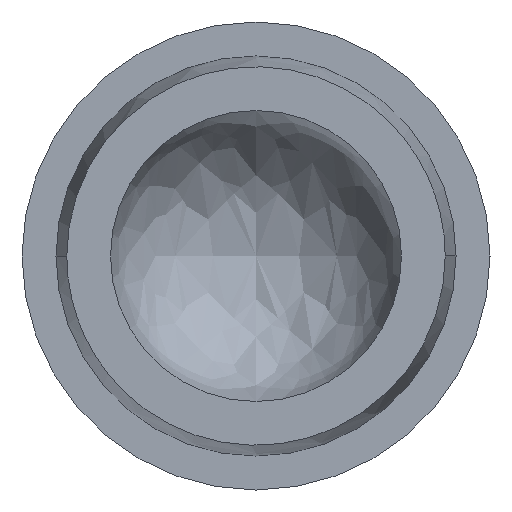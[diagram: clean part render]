
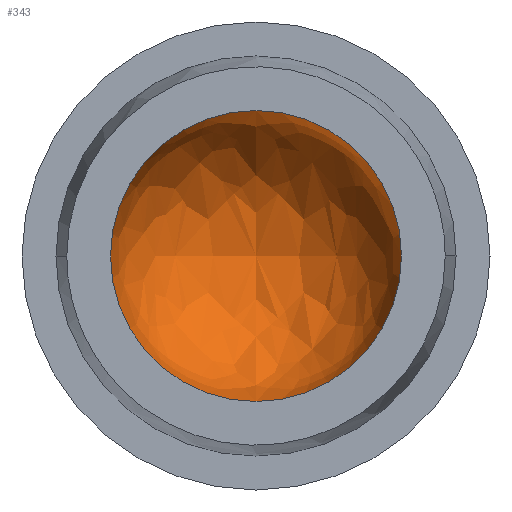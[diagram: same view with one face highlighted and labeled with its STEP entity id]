
A CAD part, left-side view. The second image highlights one B-rep face of the part: STEP entity #343.
In plain terms, the highlighted free-form (B-spline) face has degree [3, 3] with [4, 4] control points.
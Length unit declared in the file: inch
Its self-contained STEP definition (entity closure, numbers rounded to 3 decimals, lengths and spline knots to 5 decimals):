
#13 = CARTESIAN_POINT ( 'NONE',  ( 0.2296, -0.2841, -0.49872 ) ) ;
#27 = VERTEX_POINT ( 'NONE', #203 ) ;
#38 = VERTEX_POINT ( 'NONE', #122 ) ;
#51 = CARTESIAN_POINT ( 'NONE',  ( -0.76445, -0.2841, 0.58094 ) ) ;
#69 = ORIENTED_EDGE ( 'NONE', *, *, #401, .T. ) ;
#76 = EDGE_CURVE ( 'NONE', #27, #38, #479, .T. ) ;
#87 = CARTESIAN_POINT ( 'NONE',  ( 0.2296, 0.2841, -0.49872 ) ) ;
#101 = FACE_OUTER_BOUND ( 'NONE', #156, .T. ) ;
#122 = CARTESIAN_POINT ( 'NONE',  ( -0.78125, 0., -0.31093 ) ) ;
#125 = CARTESIAN_POINT ( 'NONE',  ( -0.76445, 0.2841, 0.58094 ) ) ;
#156 = EDGE_LOOP ( 'NONE', ( #69, #460 ) ) ;
#172 = DIRECTION ( 'NONE',  ( -1., 0., 0. ) ) ;
#173 = CARTESIAN_POINT ( 'NONE',  ( -0.78495, 0.31212, -0.01318 ) ) ;
#203 = CARTESIAN_POINT ( 'NONE',  ( -0.78125, 0., 0.31093 ) ) ;
#208 = CARTESIAN_POINT ( 'NONE',  ( -0.78495, -0.31212, 0.01318 ) ) ;
#211 = CARTESIAN_POINT ( 'NONE',  ( -0.81123, 0.31212, 0.01536 ) ) ;
#214 = DIRECTION ( 'NONE',  ( -1., 0., 0. ) ) ;
#247 = CARTESIAN_POINT ( 'NONE',  ( -0.78495, -0.31212, -0.01318 ) ) ;
#250 = CARTESIAN_POINT ( 'NONE',  ( -0.76445, -0.2841, -0.58094 ) ) ;
#283 = CIRCLE ( 'NONE', #394, 0.31093 ) ;
#293 = CARTESIAN_POINT ( 'NONE',  ( 0.2296, -0.2841, 0.49872 ) ) ;
#326 =( BOUNDED_SURFACE ( )  B_SPLINE_SURFACE ( 3, 3, ( 
 ( #364, #247, #208, #488 ),
 ( #250, #13, #293, #51 ),
 ( #328, #87, #368, #125 ),
 ( #409, #173, #447, #211 ) ),
 .UNSPECIFIED., .F., .F., .T. ) 
 B_SPLINE_SURFACE_WITH_KNOTS ( ( 4, 4 ),
 ( 4, 4 ),
 ( 0., 1. ),
 ( 0., 1. ),
 .UNSPECIFIED. ) 
 GEOMETRIC_REPRESENTATION_ITEM ( )  RATIONAL_B_SPLINE_SURFACE ( (
 ( 1., 0.388, 0.388, 1.),
 ( 0.366, 0.142, 0.142, 0.366),
 ( 0.366, 0.142, 0.142, 0.366),
 ( 1., 0.388, 0.388, 1.) ) ) 
 REPRESENTATION_ITEM ( '' )  SURFACE ( )  );
#328 = CARTESIAN_POINT ( 'NONE',  ( -0.76445, 0.2841, -0.58094 ) ) ;
#343 = ADVANCED_FACE ( 'NONE', ( #101 ), #326, .F. ) ;
#364 = CARTESIAN_POINT ( 'NONE',  ( -0.81123, -0.31212, -0.01536 ) ) ;
#368 = CARTESIAN_POINT ( 'NONE',  ( 0.2296, 0.2841, 0.49872 ) ) ;
#394 = AXIS2_PLACEMENT_3D ( 'NONE', #453, #214, #491 ) ;
#401 = EDGE_CURVE ( 'NONE', #38, #27, #283, .T. ) ;
#408 = CARTESIAN_POINT ( 'NONE',  ( -0.78125, 0., 0. ) ) ;
#409 = CARTESIAN_POINT ( 'NONE',  ( -0.81123, 0.31212, -0.01536 ) ) ;
#418 = AXIS2_PLACEMENT_3D ( 'NONE', #408, #172, #446 ) ;
#446 = DIRECTION ( 'NONE',  ( 0., 0., -1. ) ) ;
#447 = CARTESIAN_POINT ( 'NONE',  ( -0.78495, 0.31212, 0.01318 ) ) ;
#453 = CARTESIAN_POINT ( 'NONE',  ( -0.78125, 0., 0. ) ) ;
#460 = ORIENTED_EDGE ( 'NONE', *, *, #76, .T. ) ;
#479 = CIRCLE ( 'NONE', #418, 0.31093 ) ;
#488 = CARTESIAN_POINT ( 'NONE',  ( -0.81123, -0.31212, 0.01536 ) ) ;
#491 = DIRECTION ( 'NONE',  ( 0., 0., -1. ) ) ;
